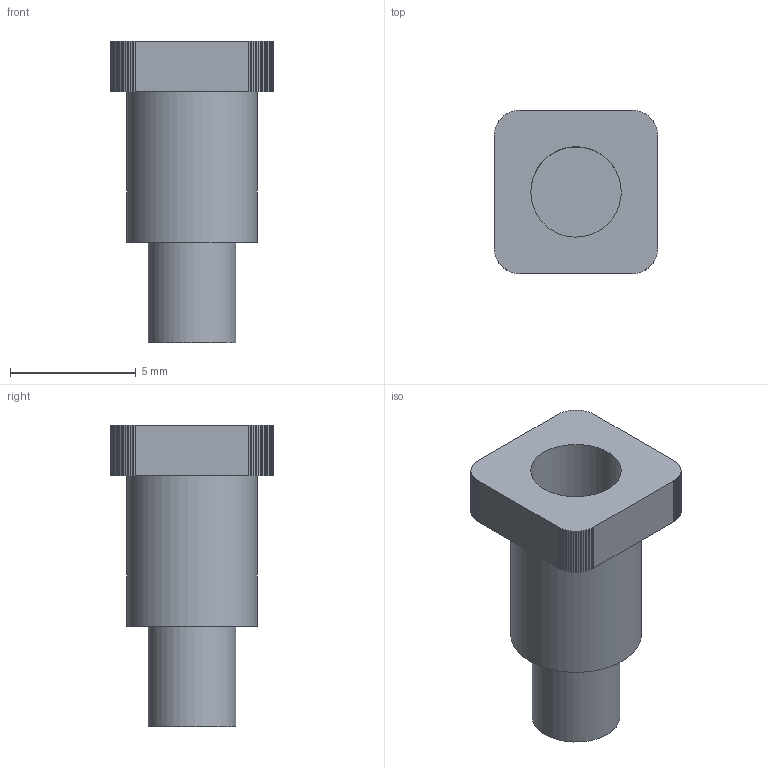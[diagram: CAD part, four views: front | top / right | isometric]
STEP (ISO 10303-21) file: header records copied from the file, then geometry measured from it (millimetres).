
FILE_DESCRIPTION(('Designed by EasyEDA Pro'),'2;1');
FILE_NAME('Open CASCADE Shape Model','2025-12-08T20:20:33',('Author'),( 'Open CASCADE'),'Open CASCADE STEP processor 7.8','Open CASCADE 7.8' ,'Unknown');
FILE_SCHEMA(('AUTOMOTIVE_DESIGN { 1 0 10303 214 1 1 1 1 }'));
Length unit declared in the file: millimetre
Products named in the file (1): Open CASCADE STEP translator 7.8 3
Bounding box: 6.5 x 6.5 x 12 mm (x, y, z)
Volume: 198.6 mm3; surface area: 330.2 mm2
Topology: 1 solids, 1 shells, 104 faces, 297 edges, 198 vertices
Faces by surface type: bspline 104
Entity records: 6412 total; most frequent: CARTESIAN_POINT 2523, B_SPLINE_CURVE_WITH_KNOTS 879, ORIENTED_EDGE 594, PCURVE 594, DEFINITIONAL_REPRESENTATION 594, EDGE_CURVE 297, SURFACE_CURVE 294, VERTEX_POINT 198
